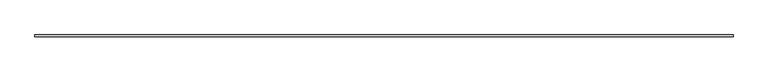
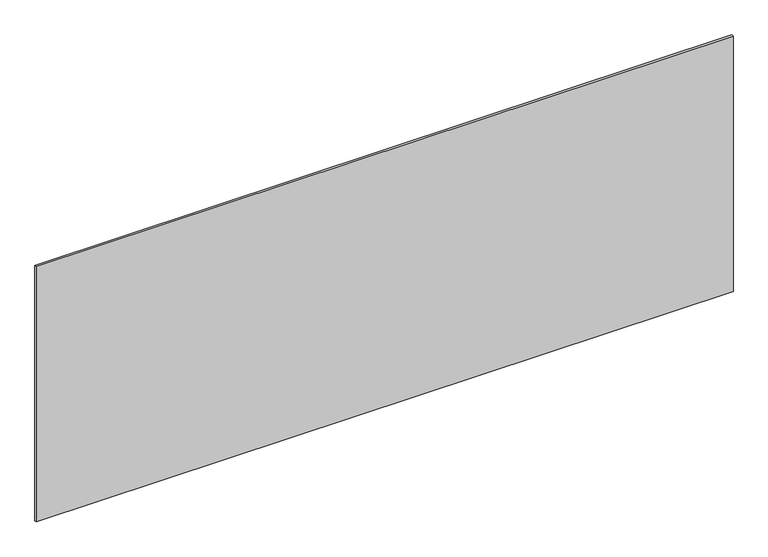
"""IFC4 building model written with IfcOpenShell, lengths in millimetres: plate geometry, システム パネル : 標準."""

from ifc_helpers import new_model, si_unit, origin, origin_with_axes, place, context, project, spatial, polyline, outline, extrude, source, transform, mapped, element, save


def plate_c2116086(model_context):
    return source(origin(), model_context, "Body", "SweptSolid", [
        extrude(outline(polyline([(1697.5, -5.0), (-1697.5, -5.0), (-1697.5, 5.0), (1697.5, 5.0), (1697.5, -5.0)])), origin_with_axes(), (0.0, 0.0, 1.0), 1315.5633458),
    ])


if __name__ == "__main__":
    model = new_model("IFC4")
    model_context = context("Model", 3, world=origin())
    ifc_project = project(units=[si_unit("LENGTHUNIT", "METRE", prefix="MILLI")], contexts=[model_context])
    site = spatial("IfcSite", under=ifc_project)
    building = spatial("IfcBuilding", under=site)
    placement = place(None, origin())
    plate_shape = plate_c2116086(model_context)
    element("IfcPlate", 1, ObjectType="システム パネル : 標準", at=placement, inside=building, context=model_context, shape_type="MappedRepresentation", body=[
        mapped(plate_shape, transform((0.0, 0.0, 0.0), x_axis=(1.0, 0.0, 0.0), y_axis=(0.0, 1.0, 0.0), z_axis=(0.0, 0.0, 1.0))),
    ])
    save(model, "model.ifc")
